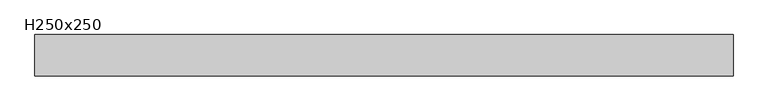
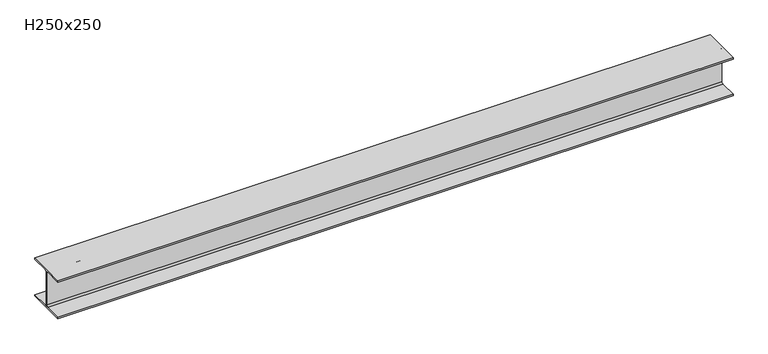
"""IFC4 building model written with IfcOpenShell, lengths in millimetres: beam geometry, H型鋼樑 : H250x250."""

from ifc_helpers import new_model, si_unit, point, frame, frame_2d, origin, place, context, project, spatial, polyline, circle_curve, trimmed, segment, composite_curve, outline, extrude, source, transform, mapped, element, save


def h250x250_d6619e70(model_context):
    return source(origin(), model_context, "Body", "SweptSolid", [
        extrude(outline(composite_curve([segment(polyline([(-125.0, 0.0), (125.0, 0.0), (125.0, -8.0), (13.0, -8.0)]), True, "CONTINUOUS"), segment(trimmed(circle_curve(frame_2d((13.0, -18.0)), 10.0), [point((13.0, -8.0))], [point((3.0, -18.0))], True, "CARTESIAN"), True, "CONTINUOUS"), segment(polyline([(3.0, -18.0), (3.0, -232.0)]), True, "CONTINUOUS"), segment(trimmed(circle_curve(frame_2d((13.0, -232.0)), 10.0), [point((3.0, -232.0))], [point((13.0, -242.0))], True, "CARTESIAN"), True, "CONTINUOUS"), segment(polyline([(13.0, -242.0), (125.0, -242.0), (125.0, -250.0), (-125.0, -250.0), (-125.0, -242.0), (-13.0, -242.0)]), True, "CONTINUOUS"), segment(trimmed(circle_curve(frame_2d((-13.0, -232.0)), 10.0), [point((-13.0, -242.0))], [point((-3.0, -232.0))], True, "CARTESIAN"), True, "CONTINUOUS"), segment(polyline([(-3.0, -232.0), (-3.0, -18.0)]), True, "CONTINUOUS"), segment(trimmed(circle_curve(frame_2d((-13.0, -18.0)), 10.0), [point((-3.0, -18.0))], [point((-13.0, -8.0))], True, "CARTESIAN"), True, "CONTINUOUS"), segment(polyline([(-13.0, -8.0), (-125.0, -8.0), (-125.0, 0.0)]), True, "CONTINUOUS")], self_intersect=False)), frame((-2112.3, 0.0, 0.0), z_axis=(1.0, 0.0, 0.0), x_axis=(0.0, 1.0, 0.0)), (0.0, 0.0, 1.0), 4224.6),
    ])


if __name__ == "__main__":
    model = new_model("IFC4")
    model_context = context("Model", 3, world=origin())
    ifc_project = project(units=[si_unit("LENGTHUNIT", "METRE", prefix="MILLI")], contexts=[model_context])
    site = spatial("IfcSite", under=ifc_project)
    building = spatial("IfcBuilding", under=site)
    placement = place(None, origin())
    h250x250_shape = h250x250_d6619e70(model_context)
    element("IfcBeam", 1, ObjectType="H型鋼樑 : H250x250", at=placement, inside=building, context=model_context, shape_type="MappedRepresentation", body=[
        mapped(h250x250_shape, transform((0.0, 0.0, 0.0), x_axis=(1.0, 0.0, 0.0), y_axis=(0.0, 1.0, 0.0), z_axis=(0.0, 0.0, 1.0))),
    ])
    save(model, "model.ifc")
